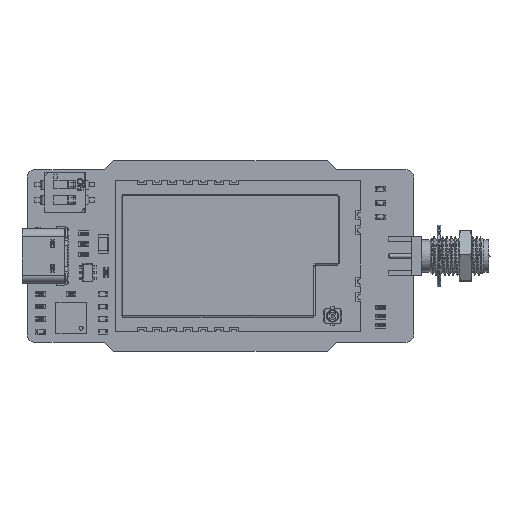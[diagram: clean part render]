
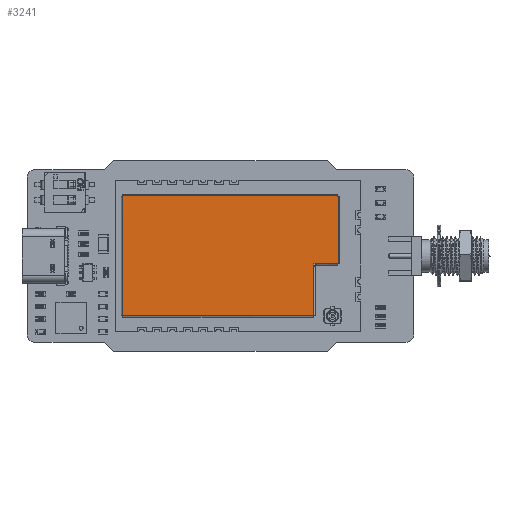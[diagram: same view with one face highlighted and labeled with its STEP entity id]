
A CAD part, top view. The second image highlights one B-rep face of the part: STEP entity #3241.
In plain terms, the highlighted planar face has unit normal (0, 0, 1) as drawn and (0, 1, 0) by its records, which use the part's own axes.
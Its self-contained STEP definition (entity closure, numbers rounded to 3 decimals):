
#1390 = VERTEX_POINT('',#1391);
#1391 = CARTESIAN_POINT('',(9.9,3.77,-19.013));
#1405 = VERTEX_POINT('',#1406);
#1406 = CARTESIAN_POINT('',(9.863,3.77,-19.013));
#1412 = EDGE_CURVE('',#1405,#1390,#1413,.T.);
#1413 = LINE('',#1414,#1415);
#1414 = CARTESIAN_POINT('',(0.,3.77,-19.013));
#1415 = VECTOR('',#1416,1.);
#1416 = DIRECTION('',(1.,0.,0.));
#1436 = VERTEX_POINT('',#1437);
#1437 = CARTESIAN_POINT('',(9.863,3.77,-19.05));
#1444 = EDGE_CURVE('',#1436,#1405,#1445,.T.);
#1445 = LINE('',#1446,#1447);
#1446 = CARTESIAN_POINT('',(9.863,3.77,0.));
#1447 = VECTOR('',#1448,1.);
#1448 = DIRECTION('',(0.,0.,1.));
#1609 = VERTEX_POINT('',#1610);
#1610 = CARTESIAN_POINT('',(-9.863,3.77,-19.05));
#1674 = VERTEX_POINT('',#1675);
#1675 = CARTESIAN_POINT('',(-9.863,3.77,-19.013));
#1681 = EDGE_CURVE('',#1674,#1609,#1682,.T.);
#1682 = LINE('',#1683,#1684);
#1683 = CARTESIAN_POINT('',(-9.863,3.77,0.));
#1684 = VECTOR('',#1685,1.);
#1685 = DIRECTION('',(0.,0.,-1.));
#1705 = VERTEX_POINT('',#1706);
#1706 = CARTESIAN_POINT('',(-9.9,3.77,-19.013));
#1713 = EDGE_CURVE('',#1705,#1674,#1714,.T.);
#1714 = LINE('',#1715,#1716);
#1715 = CARTESIAN_POINT('',(0.,3.77,-19.013));
#1716 = VECTOR('',#1717,1.);
#1717 = DIRECTION('',(1.,0.,0.));
#1878 = VERTEX_POINT('',#1879);
#1879 = CARTESIAN_POINT('',(-9.9,3.77,12.513));
#1943 = VERTEX_POINT('',#1944);
#1944 = CARTESIAN_POINT('',(-9.863,3.77,12.513));
#1950 = EDGE_CURVE('',#1943,#1878,#1951,.T.);
#1951 = LINE('',#1952,#1953);
#1952 = CARTESIAN_POINT('',(0.,3.77,12.513));
#1953 = VECTOR('',#1954,1.);
#1954 = DIRECTION('',(-1.,0.,0.));
#1974 = VERTEX_POINT('',#1975);
#1975 = CARTESIAN_POINT('',(-9.863,3.77,12.55));
#1982 = EDGE_CURVE('',#1974,#1943,#1983,.T.);
#1983 = LINE('',#1984,#1985);
#1984 = CARTESIAN_POINT('',(-9.863,3.77,0.));
#1985 = VECTOR('',#1986,1.);
#1986 = DIRECTION('',(0.,0.,-1.));
#2218 = VERTEX_POINT('',#2219);
#2219 = CARTESIAN_POINT('',(-1.738,3.77,12.55));
#2250 = VERTEX_POINT('',#2251);
#2251 = CARTESIAN_POINT('',(-1.738,3.77,12.513));
#2257 = EDGE_CURVE('',#2250,#2218,#2258,.T.);
#2258 = LINE('',#2259,#2260);
#2259 = CARTESIAN_POINT('',(-1.738,3.77,0.));
#2260 = VECTOR('',#2261,1.);
#2261 = DIRECTION('',(0.,-0.,1.));
#2281 = VERTEX_POINT('',#2282);
#2282 = CARTESIAN_POINT('',(-1.263,3.77,12.513));
#2288 = EDGE_CURVE('',#2281,#2250,#2289,.T.);
#2289 = LINE('',#2290,#2291);
#2290 = CARTESIAN_POINT('',(0.,3.77,12.513));
#2291 = VECTOR('',#2292,1.);
#2292 = DIRECTION('',(-1.,0.,0.));
#2312 = VERTEX_POINT('',#2313);
#2313 = CARTESIAN_POINT('',(-1.263,3.77,12.988));
#2319 = EDGE_CURVE('',#2312,#2281,#2320,.T.);
#2320 = LINE('',#2321,#2322);
#2321 = CARTESIAN_POINT('',(-1.263,3.77,0.));
#2322 = VECTOR('',#2323,1.);
#2323 = DIRECTION('',(0.,0.,-1.));
#2343 = VERTEX_POINT('',#2344);
#2344 = CARTESIAN_POINT('',(-1.3,3.77,12.988));
#2350 = EDGE_CURVE('',#2343,#2312,#2351,.T.);
#2351 = LINE('',#2352,#2353);
#2352 = CARTESIAN_POINT('',(0.,3.77,12.988));
#2353 = VECTOR('',#2354,1.);
#2354 = DIRECTION('',(1.,0.,0.));
#2554 = VERTEX_POINT('',#2555);
#2555 = CARTESIAN_POINT('',(-1.3,3.77,16.513));
#2619 = VERTEX_POINT('',#2620);
#2620 = CARTESIAN_POINT('',(-1.263,3.77,16.513));
#2626 = EDGE_CURVE('',#2619,#2554,#2627,.T.);
#2627 = LINE('',#2628,#2629);
#2628 = CARTESIAN_POINT('',(0.,3.77,16.513));
#2629 = VECTOR('',#2630,1.);
#2630 = DIRECTION('',(-1.,0.,0.));
#2650 = VERTEX_POINT('',#2651);
#2651 = CARTESIAN_POINT('',(-1.263,3.77,16.55));
#2658 = EDGE_CURVE('',#2650,#2619,#2659,.T.);
#2659 = LINE('',#2660,#2661);
#2660 = CARTESIAN_POINT('',(-1.263,3.77,0.));
#2661 = VECTOR('',#2662,1.);
#2662 = DIRECTION('',(0.,0.,-1.));
#2823 = VERTEX_POINT('',#2824);
#2824 = CARTESIAN_POINT('',(9.863,3.77,16.55));
#2888 = VERTEX_POINT('',#2889);
#2889 = CARTESIAN_POINT('',(9.863,3.77,16.513));
#2895 = EDGE_CURVE('',#2888,#2823,#2896,.T.);
#2896 = LINE('',#2897,#2898);
#2897 = CARTESIAN_POINT('',(9.863,3.77,0.));
#2898 = VECTOR('',#2899,1.);
#2899 = DIRECTION('',(0.,0.,1.));
#2919 = VERTEX_POINT('',#2920);
#2920 = CARTESIAN_POINT('',(9.9,3.77,16.513));
#2927 = EDGE_CURVE('',#2919,#2888,#2928,.T.);
#2928 = LINE('',#2929,#2930);
#2929 = CARTESIAN_POINT('',(0.,3.77,16.513));
#2930 = VECTOR('',#2931,1.);
#2931 = DIRECTION('',(-1.,0.,0.));
#3241 = ADVANCED_FACE('',(#3242),#3294,.T.);
#3242 = FACE_BOUND('',#3243,.T.);
#3243 = EDGE_LOOP('',(#3244,#3245,#3251,#3252,#3253,#3259,#3260,#3261,
    #3267,#3268,#3269,#3270,#3271,#3277,#3278,#3279,#3285,#3286,#3287,
    #3293));
#3244 = ORIENTED_EDGE('',*,*,#1444,.F.);
#3245 = ORIENTED_EDGE('',*,*,#3246,.T.);
#3246 = EDGE_CURVE('',#1436,#1609,#3247,.T.);
#3247 = LINE('',#3248,#3249);
#3248 = CARTESIAN_POINT('',(-9.844,3.77,-19.05));
#3249 = VECTOR('',#3250,1.);
#3250 = DIRECTION('',(-1.,0.,0.));
#3251 = ORIENTED_EDGE('',*,*,#1681,.F.);
#3252 = ORIENTED_EDGE('',*,*,#1713,.F.);
#3253 = ORIENTED_EDGE('',*,*,#3254,.T.);
#3254 = EDGE_CURVE('',#1705,#1878,#3255,.T.);
#3255 = LINE('',#3256,#3257);
#3256 = CARTESIAN_POINT('',(-9.9,3.77,12.494));
#3257 = VECTOR('',#3258,1.);
#3258 = DIRECTION('',(0.,-0.,1.));
#3259 = ORIENTED_EDGE('',*,*,#1950,.F.);
#3260 = ORIENTED_EDGE('',*,*,#1982,.F.);
#3261 = ORIENTED_EDGE('',*,*,#3262,.T.);
#3262 = EDGE_CURVE('',#1974,#2218,#3263,.T.);
#3263 = LINE('',#3264,#3265);
#3264 = CARTESIAN_POINT('',(-1.738,3.77,12.55));
#3265 = VECTOR('',#3266,1.);
#3266 = DIRECTION('',(1.,0.,0.));
#3267 = ORIENTED_EDGE('',*,*,#2257,.F.);
#3268 = ORIENTED_EDGE('',*,*,#2288,.F.);
#3269 = ORIENTED_EDGE('',*,*,#2319,.F.);
#3270 = ORIENTED_EDGE('',*,*,#2350,.F.);
#3271 = ORIENTED_EDGE('',*,*,#3272,.T.);
#3272 = EDGE_CURVE('',#2343,#2554,#3273,.T.);
#3273 = LINE('',#3274,#3275);
#3274 = CARTESIAN_POINT('',(-1.3,3.77,16.494));
#3275 = VECTOR('',#3276,1.);
#3276 = DIRECTION('',(0.,0.,1.));
#3277 = ORIENTED_EDGE('',*,*,#2626,.F.);
#3278 = ORIENTED_EDGE('',*,*,#2658,.F.);
#3279 = ORIENTED_EDGE('',*,*,#3280,.T.);
#3280 = EDGE_CURVE('',#2650,#2823,#3281,.T.);
#3281 = LINE('',#3282,#3283);
#3282 = CARTESIAN_POINT('',(9.844,3.77,16.55));
#3283 = VECTOR('',#3284,1.);
#3284 = DIRECTION('',(1.,-0.,0.));
#3285 = ORIENTED_EDGE('',*,*,#2895,.F.);
#3286 = ORIENTED_EDGE('',*,*,#2927,.F.);
#3287 = ORIENTED_EDGE('',*,*,#3288,.T.);
#3288 = EDGE_CURVE('',#2919,#1390,#3289,.T.);
#3289 = LINE('',#3290,#3291);
#3290 = CARTESIAN_POINT('',(9.9,3.77,-18.994));
#3291 = VECTOR('',#3292,1.);
#3292 = DIRECTION('',(0.,0.,-1.));
#3293 = ORIENTED_EDGE('',*,*,#1412,.F.);
#3294 = PLANE('',#3295);
#3295 = AXIS2_PLACEMENT_3D('',#3296,#3297,#3298);
#3296 = CARTESIAN_POINT('',(0.,3.77,0.));
#3297 = DIRECTION('',(0.,1.,0.));
#3298 = DIRECTION('',(0.,-0.,1.));
